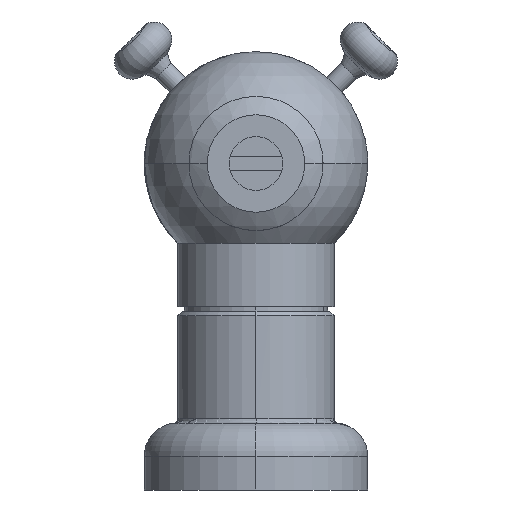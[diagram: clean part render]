
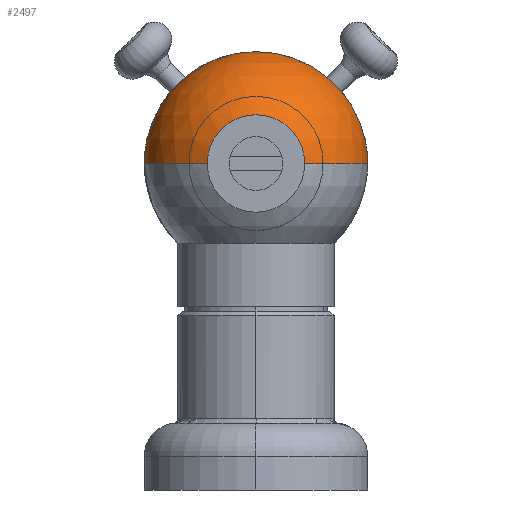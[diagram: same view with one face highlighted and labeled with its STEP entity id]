
A CAD part, front view. The second image highlights one B-rep face of the part: STEP entity #2497.
In plain terms, the highlighted spherical face has radius 25 mm.
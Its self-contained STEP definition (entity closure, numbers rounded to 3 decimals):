
#19 = AXIS2_PLACEMENT_3D ( 'NONE', #1775, #4352, #4800 ) ;
#287 = EDGE_CURVE ( 'NONE', #4257, #5169, #447, .T. ) ;
#447 = CIRCLE ( 'NONE', #6183, 17.788 ) ;
#572 = DIRECTION ( 'NONE',  ( 1., 0., 0. ) ) ;
#710 = AXIS2_PLACEMENT_3D ( 'NONE', #5004, #6412, #4063 ) ;
#744 = AXIS2_PLACEMENT_3D ( 'NONE', #5282, #5789, #1727 ) ;
#802 = ORIENTED_EDGE ( 'NONE', *, *, #5543, .F. ) ;
#816 = CARTESIAN_POINT ( 'NONE',  ( 10.897, 22.5, 0. ) ) ;
#894 = EDGE_CURVE ( 'NONE', #6014, #2582, #5454, .T. ) ;
#917 = AXIS2_PLACEMENT_3D ( 'NONE', #2125, #4103, #572 ) ;
#1229 = EDGE_CURVE ( 'NONE', #4953, #6014, #4001, .T. ) ;
#1721 = CARTESIAN_POINT ( 'NONE',  ( -17.788, -17.566, 0. ) ) ;
#1727 = DIRECTION ( 'NONE',  ( -1., 0., 0. ) ) ;
#1775 = CARTESIAN_POINT ( 'NONE',  ( 0., 0., 0. ) ) ;
#1830 = FACE_OUTER_BOUND ( 'NONE', #2304, .T. ) ;
#2125 = CARTESIAN_POINT ( 'NONE',  ( 0., -17.566, 0. ) ) ;
#2281 = DIRECTION ( 'NONE',  ( 0., -1., 0. ) ) ;
#2304 = EDGE_LOOP ( 'NONE', ( #6165, #5444, #3868, #802, #6290 ) ) ;
#2497 = ADVANCED_FACE ( 'NONE', ( #1830 ), #5759, .T. ) ;
#2582 = VERTEX_POINT ( 'NONE', #3013 ) ;
#3013 = CARTESIAN_POINT ( 'NONE',  ( -10.897, 22.5, 0. ) ) ;
#3108 = CARTESIAN_POINT ( 'NONE',  ( 0., 22.5, 0. ) ) ;
#3488 = DIRECTION ( 'NONE',  ( 0., -1., 0. ) ) ;
#3732 = CARTESIAN_POINT ( 'NONE',  ( 17.788, -17.566, 0. ) ) ;
#3868 = ORIENTED_EDGE ( 'NONE', *, *, #287, .F. ) ;
#4001 = CIRCLE ( 'NONE', #19, 25. ) ;
#4063 = DIRECTION ( 'NONE',  ( -0.712, -0.703, 0. ) ) ;
#4103 = DIRECTION ( 'NONE',  ( 0., -1., 0. ) ) ;
#4257 = VERTEX_POINT ( 'NONE', #6223 ) ;
#4352 = DIRECTION ( 'NONE',  ( 0., 0., 1. ) ) ;
#4383 = CIRCLE ( 'NONE', #917, 17.788 ) ;
#4800 = DIRECTION ( 'NONE',  ( 0.712, -0.703, 0. ) ) ;
#4939 = EDGE_CURVE ( 'NONE', #5169, #2582, #6458, .T. ) ;
#4953 = VERTEX_POINT ( 'NONE', #3732 ) ;
#5004 = CARTESIAN_POINT ( 'NONE',  ( 0., 0., 0. ) ) ;
#5169 = VERTEX_POINT ( 'NONE', #1721 ) ;
#5249 = AXIS2_PLACEMENT_3D ( 'NONE', #3108, #3488, #5589 ) ;
#5282 = CARTESIAN_POINT ( 'NONE',  ( 0., 0., 0. ) ) ;
#5444 = ORIENTED_EDGE ( 'NONE', *, *, #4939, .F. ) ;
#5454 = CIRCLE ( 'NONE', #5249, 10.897 ) ;
#5543 = EDGE_CURVE ( 'NONE', #4953, #4257, #4383, .T. ) ;
#5589 = DIRECTION ( 'NONE',  ( 1., 0., 0. ) ) ;
#5747 = CARTESIAN_POINT ( 'NONE',  ( 0., -17.566, 0. ) ) ;
#5759 = SPHERICAL_SURFACE ( 'NONE', #744, 25. ) ;
#5780 = DIRECTION ( 'NONE',  ( 1., 0., 0. ) ) ;
#5789 = DIRECTION ( 'NONE',  ( 0., 0., -1. ) ) ;
#6014 = VERTEX_POINT ( 'NONE', #816 ) ;
#6165 = ORIENTED_EDGE ( 'NONE', *, *, #894, .T. ) ;
#6183 = AXIS2_PLACEMENT_3D ( 'NONE', #5747, #2281, #5780 ) ;
#6223 = CARTESIAN_POINT ( 'NONE',  ( -17.788, -17.566, 0.09 ) ) ;
#6290 = ORIENTED_EDGE ( 'NONE', *, *, #1229, .T. ) ;
#6412 = DIRECTION ( 'NONE',  ( 0., 0., -1. ) ) ;
#6458 = CIRCLE ( 'NONE', #710, 25. ) ;
